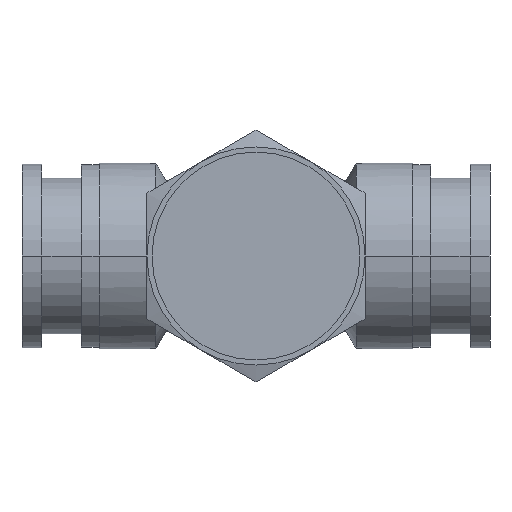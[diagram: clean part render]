
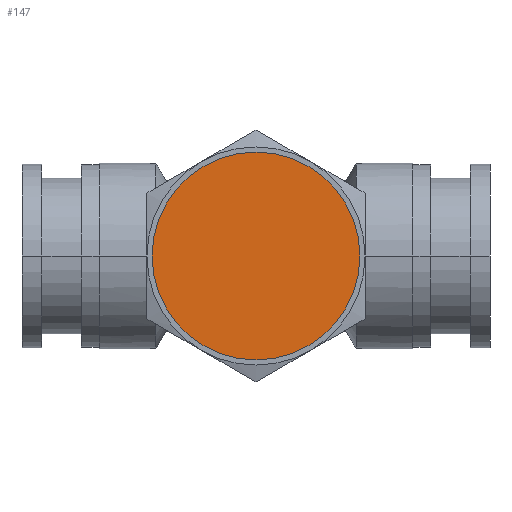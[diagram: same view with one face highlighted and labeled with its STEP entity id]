
A CAD part, front view. The second image highlights one B-rep face of the part: STEP entity #147.
In plain terms, the highlighted planar face has unit normal (0, -1, 0).
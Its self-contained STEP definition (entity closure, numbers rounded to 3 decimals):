
#147 = ADVANCED_FACE( '', ( #315 ), #316, .T. );
#315 = FACE_OUTER_BOUND( '', #516, .T. );
#316 = PLANE( '', #517 );
#516 = EDGE_LOOP( '', ( #1133, #1134 ) );
#517 = AXIS2_PLACEMENT_3D( '', #1135, #1136, #1137 );
#1133 = ORIENTED_EDGE( '', *, *, #1344, .F. );
#1134 = ORIENTED_EDGE( '', *, *, #1505, .F. );
#1135 = CARTESIAN_POINT( '', ( 5.239, -6.45, 0. ) );
#1136 = DIRECTION( '', ( 0., -1., 0. ) );
#1137 = DIRECTION( '', ( -1., 0., 0. ) );
#1344 = EDGE_CURVE( '', #1605, #1608, #1609, .T. );
#1505 = EDGE_CURVE( '', #1608, #1605, #1867, .T. );
#1605 = VERTEX_POINT( '', #2004 );
#1608 = VERTEX_POINT( '', #2008 );
#1609 = CIRCLE( '', #2009, 10.478 );
#1867 = CIRCLE( '', #2900, 10.478 );
#2004 = CARTESIAN_POINT( '', ( 10.478, -6.45, 0. ) );
#2008 = CARTESIAN_POINT( '', ( -10.478, -6.45, 0. ) );
#2009 = AXIS2_PLACEMENT_3D( '', #2999, #3000, #3001 );
#2900 = AXIS2_PLACEMENT_3D( '', #3234, #3235, #3236 );
#2999 = CARTESIAN_POINT( '', ( 0., -6.45, 0. ) );
#3000 = DIRECTION( '', ( 0., 1., 0. ) );
#3001 = DIRECTION( '', ( 1., 0., 0. ) );
#3234 = CARTESIAN_POINT( '', ( 0., -6.45, 0. ) );
#3235 = DIRECTION( '', ( 0., 1., 0. ) );
#3236 = DIRECTION( '', ( 1., 0., 0. ) );
